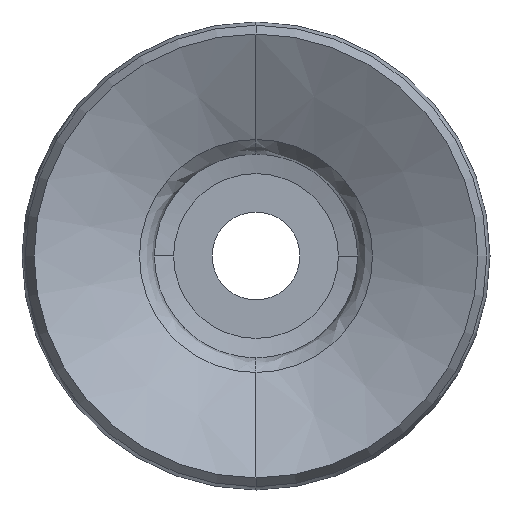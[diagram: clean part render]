
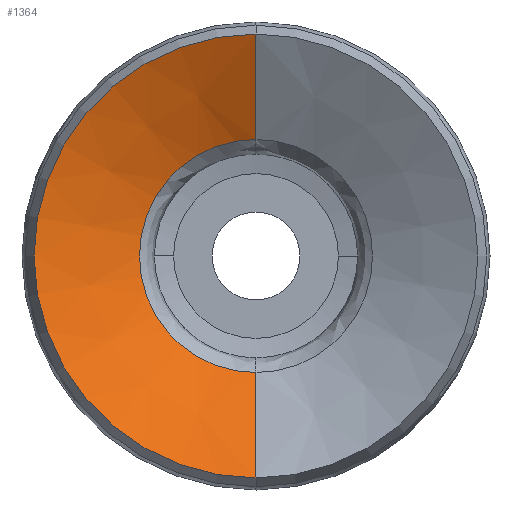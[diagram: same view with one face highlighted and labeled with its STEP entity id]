
A CAD part, front view. The second image highlights one B-rep face of the part: STEP entity #1364.
In plain terms, the highlighted conical face has half-angle 62.11 degrees and reference radius 10.607 mm.
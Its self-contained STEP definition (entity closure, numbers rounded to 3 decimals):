
#44 = ORIENTED_EDGE ( 'NONE', *, *, #211, .T. ) ;
#57 = VECTOR ( 'NONE', #92, 1000. ) ;
#62 = ORIENTED_EDGE ( 'NONE', *, *, #1078, .T. ) ;
#80 = AXIS2_PLACEMENT_3D ( 'NONE', #1593, #514, #193 ) ;
#92 = DIRECTION ( 'NONE',  ( 0., -0.468, 0.884 ) ) ;
#111 = DIRECTION ( 'NONE',  ( 0., 0., -1. ) ) ;
#150 = CARTESIAN_POINT ( 'NONE',  ( 0., -40.92, 0. ) ) ;
#190 = DIRECTION ( 'NONE',  ( 0., 0., 1. ) ) ;
#192 = CARTESIAN_POINT ( 'NONE',  ( 0., -46., 0. ) ) ;
#193 = DIRECTION ( 'NONE',  ( 1., 0., 0. ) ) ;
#197 = DIRECTION ( 'NONE',  ( 0., -1., 0. ) ) ;
#211 = EDGE_CURVE ( 'NONE', #1335, #1395, #1368, .T. ) ;
#215 = CONICAL_SURFACE ( 'NONE', #970, 10.607, 1.084 ) ;
#297 = VECTOR ( 'NONE', #621, 1000. ) ;
#309 = EDGE_CURVE ( 'NONE', #1335, #738, #914, .T. ) ;
#351 = FACE_OUTER_BOUND ( 'NONE', #1424, .T. ) ;
#377 = AXIS2_PLACEMENT_3D ( 'NONE', #192, #197, #190 ) ;
#458 = CARTESIAN_POINT ( 'NONE',  ( 0., -40.92, 10.607 ) ) ;
#465 = CARTESIAN_POINT ( 'NONE',  ( 0., -46., -20.205 ) ) ;
#469 = CARTESIAN_POINT ( 'NONE',  ( 0., -46., 20.205 ) ) ;
#514 = DIRECTION ( 'NONE',  ( 0., 1., 0. ) ) ;
#565 = CARTESIAN_POINT ( 'NONE',  ( 0., -40.92, -10.607 ) ) ;
#621 = DIRECTION ( 'NONE',  ( 0., -0.468, -0.884 ) ) ;
#738 = VERTEX_POINT ( 'NONE', #465 ) ;
#770 = ORIENTED_EDGE ( 'NONE', *, *, #309, .F. ) ;
#771 = LINE ( 'NONE', #458, #57 ) ;
#914 = LINE ( 'NONE', #565, #297 ) ;
#970 = AXIS2_PLACEMENT_3D ( 'NONE', #150, #1296, #111 ) ;
#1078 = EDGE_CURVE ( 'NONE', #1166, #738, #1660, .T. ) ;
#1104 = CARTESIAN_POINT ( 'NONE',  ( 0., -40.92, 10.607 ) ) ;
#1166 = VERTEX_POINT ( 'NONE', #469 ) ;
#1282 = ORIENTED_EDGE ( 'NONE', *, *, #1624, .T. ) ;
#1296 = DIRECTION ( 'NONE',  ( 0., -1., 0. ) ) ;
#1317 = CARTESIAN_POINT ( 'NONE',  ( 0., -40.92, -10.607 ) ) ;
#1335 = VERTEX_POINT ( 'NONE', #1317 ) ;
#1364 = ADVANCED_FACE ( 'NONE', ( #351 ), #215, .F. ) ;
#1368 = CIRCLE ( 'NONE', #80, 10.607 ) ;
#1395 = VERTEX_POINT ( 'NONE', #1104 ) ;
#1424 = EDGE_LOOP ( 'NONE', ( #44, #1282, #62, #770 ) ) ;
#1593 = CARTESIAN_POINT ( 'NONE',  ( 0., -40.92, 0. ) ) ;
#1624 = EDGE_CURVE ( 'NONE', #1395, #1166, #771, .T. ) ;
#1660 = CIRCLE ( 'NONE', #377, 20.205 ) ;
